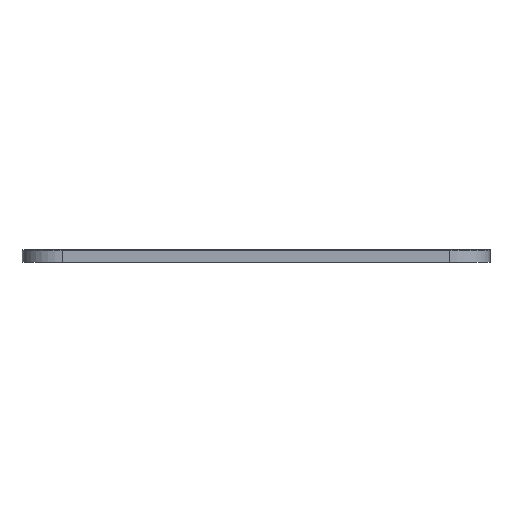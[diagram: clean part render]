
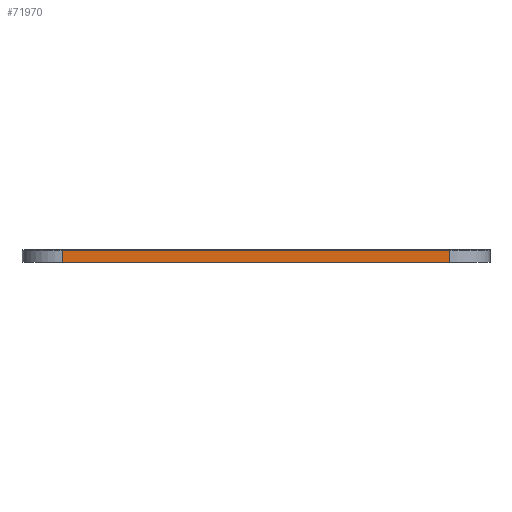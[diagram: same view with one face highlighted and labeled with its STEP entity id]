
A CAD part, left-side view. The second image highlights one B-rep face of the part: STEP entity #71970.
In plain terms, the highlighted planar face has unit normal (-1, 0, 0).
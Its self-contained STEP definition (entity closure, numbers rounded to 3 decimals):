
#71751 = VERTEX_POINT('',#71752);
#71752 = CARTESIAN_POINT('',(65.278,-61.642,0.));
#71759 = EDGE_CURVE('',#71760,#71751,#71762,.T.);
#71760 = VERTEX_POINT('',#71761);
#71761 = CARTESIAN_POINT('',(65.278,-109.808,0.));
#71762 = LINE('',#71763,#71764);
#71763 = CARTESIAN_POINT('',(65.278,-109.808,0.));
#71764 = VECTOR('',#71765,1.);
#71765 = DIRECTION('',(0.,1.,0.));
#71847 = VERTEX_POINT('',#71848);
#71848 = CARTESIAN_POINT('',(65.278,-61.642,1.51));
#71855 = EDGE_CURVE('',#71856,#71847,#71858,.T.);
#71856 = VERTEX_POINT('',#71857);
#71857 = CARTESIAN_POINT('',(65.278,-109.808,1.51));
#71858 = LINE('',#71859,#71860);
#71859 = CARTESIAN_POINT('',(65.278,-109.808,1.51));
#71860 = VECTOR('',#71861,1.);
#71861 = DIRECTION('',(0.,1.,0.));
#71940 = EDGE_CURVE('',#71751,#71847,#71941,.T.);
#71941 = LINE('',#71942,#71943);
#71942 = CARTESIAN_POINT('',(65.278,-61.642,0.));
#71943 = VECTOR('',#71944,1.);
#71944 = DIRECTION('',(0.,0.,1.));
#71970 = ADVANCED_FACE('',(#71971),#71982,.T.);
#71971 = FACE_BOUND('',#71972,.T.);
#71972 = EDGE_LOOP('',(#71973,#71979,#71980,#71981));
#71973 = ORIENTED_EDGE('',*,*,#71974,.T.);
#71974 = EDGE_CURVE('',#71760,#71856,#71975,.T.);
#71975 = LINE('',#71976,#71977);
#71976 = CARTESIAN_POINT('',(65.278,-109.808,0.));
#71977 = VECTOR('',#71978,1.);
#71978 = DIRECTION('',(0.,0.,1.));
#71979 = ORIENTED_EDGE('',*,*,#71855,.T.);
#71980 = ORIENTED_EDGE('',*,*,#71940,.F.);
#71981 = ORIENTED_EDGE('',*,*,#71759,.F.);
#71982 = PLANE('',#71983);
#71983 = AXIS2_PLACEMENT_3D('',#71984,#71985,#71986);
#71984 = CARTESIAN_POINT('',(65.278,-109.808,0.));
#71985 = DIRECTION('',(-1.,0.,0.));
#71986 = DIRECTION('',(0.,1.,0.));
